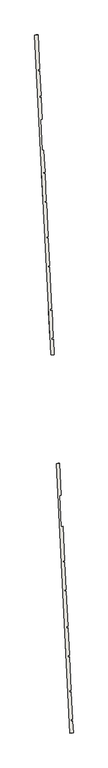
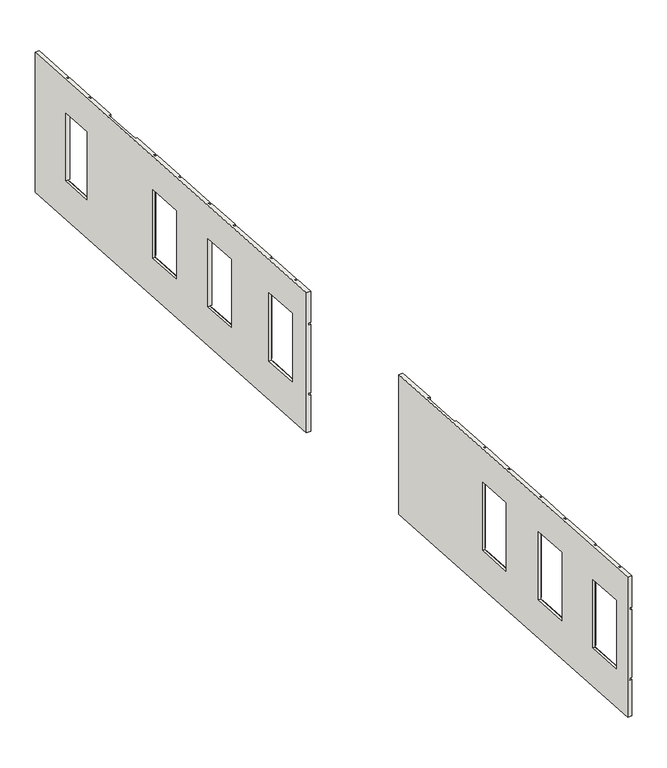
"""IFC4 building model written with IfcOpenShell, lengths in millimetres: wall geometry, kamposite4 : kamposite."""

from ifc_helpers import new_model, si_unit, origin, place, context, project, spatial, faceted_brep, source, transform, mapped, element, save


def wall_fa0acf3e(model_context):
    return source(origin(), model_context, "Body", "Brep", [
        faceted_brep([(13372.7715568, -13203.3324529, 13000.0), (13353.306831, -12820.9275904, 13000.0), (13353.306831, -12820.9275904, 13911.5733633), (13372.7715568, -13203.3324529, 13911.5733633), (13353.306831, -12820.9275904, 16500.0), (13372.7715568, -13203.3324529, 16500.0), (13372.7715568, -13203.3324529, 15720.5733633), (13353.306831, -12820.9275904, 15720.5733633), (13094.4833823, -7736.0706906, 16500.0), (13139.1735864, -8614.0564136, 16500.0), (13139.1735864, -8614.0564136, 15720.5733633), (13094.4833823, -7736.0706906, 15720.5733633), (13141.7153374, -8663.9917669, 16500.0), (13199.2035253, -9793.4072435, 16500.0), (13199.2035253, -9793.4072435, 15720.5733633), (13141.7153374, -8663.9917669, 15720.5733633), (13201.7452764, -9843.3425967, 16500.0), (13246.4354805, -10721.3283197, 16500.0), (13246.4354805, -10721.3283197, 15720.5733633), (13201.7452764, -9843.3425967, 15720.5733633), (13248.9772315, -10771.2636729, 16500.0), (13303.5331248, -11843.0711609, 16500.0), (13303.5331248, -11843.0711609, 15720.5733633), (13248.9772315, -10771.2636729, 15720.5733633), (13306.0748759, -11893.0065142, 16500.0), (13350.76508, -12770.9922372, 16500.0), (13350.76508, -12770.9922372, 15720.5733633), (13306.0748759, -11893.0065142, 15720.5733633), (13139.1735864, -8614.0564136, 13000.0), (13094.4833823, -7736.0706906, 13000.0), (13094.4833823, -7736.0706906, 13911.5733633), (13139.1735864, -8614.0564136, 13911.5733633), (13199.2035253, -9793.4072435, 13000.0), (13141.7153374, -8663.9917669, 13000.0), (13141.7153374, -8663.9917669, 13911.5733633), (13199.2035253, -9793.4072435, 13911.5733633), (13246.4354805, -10721.3283197, 13000.0), (13201.7452764, -9843.3425967, 13000.0), (13201.7452764, -9843.3425967, 13911.5733633), (13246.4354805, -10721.3283197, 13911.5733633), (13303.5331248, -11843.0711609, 13000.0), (13248.9772315, -10771.2636729, 13000.0), (13248.9772315, -10771.2636729, 13911.5733633), (13303.5331248, -11843.0711609, 13911.5733633), (13350.76508, -12770.9922372, 13000.0), (13306.0748759, -11893.0065142, 13000.0), (13306.0748759, -11893.0065142, 13911.5733633), (13350.76508, -12770.9922372, 13911.5733633), (13350.6602996, -12768.9337164, 15670.0), (13306.0748759, -11893.0065142, 15670.0), (13306.0748759, -11893.0065142, 15670.5733633), (13350.76508, -12770.9922372, 15670.5733633), (13350.76508, -12770.9922372, 13961.5733633), (13350.6602996, -12768.9337164, 13961.5733633), (13246.4354805, -10721.3283197, 15670.0), (13201.7452764, -9843.3425967, 15670.0), (13201.7452764, -9843.3425967, 15670.5733633), (13246.4354805, -10721.3283197, 15670.5733633), (13139.1735864, -8614.0564136, 15670.0), (13094.4833823, -7736.0706906, 15670.0), (13094.4833823, -7736.0706906, 15670.5733633), (13139.1735864, -8614.0564136, 15670.5733633), (12933.6170031, -4575.6827045, 13000.0), (12933.6170031, -4575.6827045, 13911.5733633), (12985.7398324, -5599.6901091, 13911.5733633), (12985.7398324, -5599.6901091, 13000.0), (12933.6170031, -4575.6827045, 15720.5733633), (12933.6170031, -4575.6827045, 16500.0), (12985.7398324, -5599.6901091, 16500.0), (12985.7398324, -5599.6901091, 15720.5733633), (12933.6170031, -4575.6827045, 13961.5733633), (12933.6170031, -4575.6827045, 15670.5733633), (12985.7398324, -5599.6901091, 15670.5733633), (12985.7398324, -5599.6901091, 13961.5733633), (13091.9416312, -7686.1353374, 13911.5733633), (13091.9416312, -7686.1353374, 13000.0), (13036.3776474, -6594.5228575, 13000.0), (13036.3776474, -6594.5228575, 13911.5733633), (13091.9416312, -7686.1353374, 16500.0), (13091.9416312, -7686.1353374, 15720.5733633), (13036.3776474, -6594.5228575, 15720.5733633), (13036.3776474, -6594.5228575, 16500.0), (13091.9416312, -7686.1353374, 15670.5733633), (13091.9416312, -7686.1353374, 13961.5733633), (13036.3776474, -6594.5228575, 13961.5733633), (13036.3776474, -6594.5228575, 15670.5733633), (13199.2035253, -9793.4072435, 15670.5733633), (13199.2035253, -9793.4072435, 13961.5733633), (13141.7153374, -8663.9917669, 13961.5733633), (13141.7153374, -8663.9917669, 15670.5733633), (13303.5331248, -11843.0711609, 15670.5733633), (13303.5331248, -11843.0711609, 13961.5733633), (13248.9772315, -10771.2636729, 13961.5733633), (13248.9772315, -10771.2636729, 15670.5733633), (13372.7715568, -13203.3324529, 15670.5733633), (13372.7715568, -13203.3324529, 13961.5733633), (13353.306831, -12820.9275904, 13961.5733633), (13353.306831, -12820.9275904, 15670.5733633), (12833.7462967, -4580.7662066, 16500.0), (12833.7462967, -4580.7662066, 13000.0), (13272.9008504, -13208.415955, 13000.0), (13272.9008504, -13208.415955, 16500.0), (13206.0547747, -11895.1550017, 15670.0), (13250.7895931, -12774.0172185, 15670.0), (13250.7895931, -12774.0172185, 13960.0), (13206.0547747, -11895.1550017, 13960.0), (13101.8429819, -9847.8055195, 15670.0), (13146.5778003, -10726.6677363, 15670.0), (13146.5778003, -10726.6677363, 13960.0), (13101.8429819, -9847.8055195, 13960.0), (12994.5810878, -7740.5336135, 15670.0), (13039.3159062, -8619.3958302, 15670.0), (13039.3159062, -8619.3958302, 13960.0), (12994.5810878, -7740.5336135, 13960.0), (13303.3714778, -12823.4693414, 16500.0), (13300.8297268, -12773.5339882, 16500.0), (13256.1395226, -11895.5482652, 16500.0), (13253.5977716, -11845.612912, 16500.0), (13199.0418783, -10773.805424, 16500.0), (13196.5001272, -10723.8700707, 16500.0), (13151.8099231, -9845.8843478, 16500.0), (13149.2681721, -9795.9489945, 16500.0), (13091.7799842, -8666.5335179, 16500.0), (13089.2382332, -8616.5981647, 16500.0), (13044.5480291, -7738.6124417, 16500.0), (13042.006278, -7688.6770885, 16500.0), (12986.4422941, -6597.0646086, 16500.0), (12935.8044792, -5602.2318601, 16500.0), (13322.8362036, -13205.874204, 13911.5733633), (13322.8362036, -13205.874204, 13961.5733633), (13322.8362036, -13205.874204, 15670.5733633), (13322.8362036, -13205.874204, 15720.5733633), (12935.8044792, -5602.2318601, 13000.0), (12986.4422941, -6597.0646086, 13000.0), (13042.006278, -7688.6770885, 13000.0), (13044.5480291, -7738.6124417, 13000.0), (13089.2382332, -8616.5981647, 13000.0), (13091.7799842, -8666.5335179, 13000.0), (13149.2681721, -9795.9489945, 13000.0), (13151.8099231, -9845.8843478, 13000.0), (13196.5001272, -10723.8700707, 13000.0), (13199.0418783, -10773.805424, 13000.0), (13253.5977716, -11845.612912, 13000.0), (13256.1395226, -11895.5482652, 13000.0), (13300.8297268, -12773.5339882, 13000.0), (13303.3714778, -12823.4693414, 13000.0), (12883.6816499, -4578.2244556, 15720.5733633), (12883.6816499, -4578.2244556, 15670.5733633), (12883.6816499, -4578.2244556, 13961.5733633), (12883.6816499, -4578.2244556, 13911.5733633), (13255.9901279, -11892.6132507, 13960.0), (13255.9901279, -11892.6132507, 15670.0), (13300.7249463, -12771.4754674, 13960.0), (13300.7249463, -12771.4754674, 13961.5733633), (13256.1395226, -11895.5482652, 15670.0), (13151.7783351, -9845.2637685, 13960.0), (13151.7783351, -9845.2637685, 15670.0), (13196.5131535, -10724.1259852, 13960.0), (13196.5131535, -10724.1259852, 15670.0), (13151.8099231, -9845.8843478, 15670.0), (13196.5001272, -10723.8700707, 15670.0), (13044.5164411, -7737.9918624, 13960.0), (13044.5164411, -7737.9918624, 15670.0), (13089.2512594, -8616.8540792, 13960.0), (13089.2512594, -8616.8540792, 15670.0), (13044.5480291, -7738.6124417, 15670.0), (13089.2382332, -8616.5981647, 15670.0), (13044.5480291, -7738.6124417, 15720.5733633), (13089.2382332, -8616.5981647, 15720.5733633), (13091.7799842, -8666.5335179, 15720.5733633), (13149.2681721, -9795.9489945, 15720.5733633), (13151.8099231, -9845.8843478, 15720.5733633), (13196.5001272, -10723.8700707, 15720.5733633), (13199.0418783, -10773.805424, 15720.5733633), (13253.5977716, -11845.612912, 15720.5733633), (13256.1395226, -11895.5482652, 15720.5733633), (13300.8297268, -12773.5339882, 15720.5733633), (13303.3714778, -12823.4693414, 15720.5733633), (13303.3714778, -12823.4693414, 15670.5733633), (13303.3714778, -12823.4693414, 13961.5733633), (13303.3714778, -12823.4693414, 13911.5733633), (13300.8297268, -12773.5339882, 13911.5733633), (13256.1395226, -11895.5482652, 13911.5733633), (13253.5977716, -11845.612912, 13911.5733633), (13199.0418783, -10773.805424, 13911.5733633), (13196.5001272, -10723.8700707, 13911.5733633), (13151.8099231, -9845.8843478, 13911.5733633), (13149.2681721, -9795.9489945, 13911.5733633), (13091.7799842, -8666.5335179, 13911.5733633), (13089.2382332, -8616.5981647, 13911.5733633), (13044.5480291, -7738.6124417, 13911.5733633), (13042.006278, -7688.6770885, 13911.5733633), (12986.4422941, -6597.0646086, 13911.5733633), (12935.8044792, -5602.2318601, 13911.5733633), (12935.8044792, -5602.2318601, 13961.5733633), (12935.8044792, -5602.2318601, 15670.5733633), (12935.8044792, -5602.2318601, 15720.5733633), (12986.4422941, -6597.0646086, 15720.5733633), (13042.006278, -7688.6770885, 15720.5733633), (13300.8297268, -12773.5339882, 13961.5733633), (13300.8297268, -12773.5339882, 15670.5733633), (13256.1395226, -11895.5482652, 15670.5733633), (13196.5001272, -10723.8700707, 15670.5733633), (13151.8099231, -9845.8843478, 15670.5733633), (13089.2382332, -8616.5981647, 15670.5733633), (13044.5480291, -7738.6124417, 15670.5733633), (13091.7799842, -8666.5335179, 15670.5733633), (13091.7799842, -8666.5335179, 13961.5733633), (13149.2681721, -9795.9489945, 13961.5733633), (13149.2681721, -9795.9489945, 15670.5733633), (13199.0418783, -10773.805424, 15670.5733633), (13199.0418783, -10773.805424, 13961.5733633), (13253.5977716, -11845.612912, 13961.5733633), (13253.5977716, -11845.612912, 15670.5733633), (13042.006278, -7688.6770885, 15670.5733633), (12986.4422941, -6597.0646086, 15670.5733633), (12986.4422941, -6597.0646086, 13961.5733633), (13042.006278, -7688.6770885, 13961.5733633)], [[[0, 1, 2, 3]], [[4, 5, 6, 7]], [[8, 9, 10, 11]], [[12, 13, 14, 15]], [[16, 17, 18, 19]], [[20, 21, 22, 23]], [[24, 25, 26, 27]], [[28, 29, 30, 31]], [[32, 33, 34, 35]], [[36, 37, 38, 39]], [[40, 41, 42, 43]], [[44, 45, 46, 47]], [[48, 49, 50, 51, 52, 53]], [[54, 55, 56, 57]], [[58, 59, 60, 61]], [[62, 63, 64, 65]], [[66, 67, 68, 69]], [[70, 71, 72, 73]], [[74, 75, 76, 77]], [[78, 79, 80, 81]], [[82, 83, 84, 85]], [[86, 87, 88, 89]], [[90, 91, 92, 93]], [[94, 95, 96, 97]], [[98, 99, 100, 101], [102, 103, 104, 105], [106, 107, 108, 109], [110, 111, 112, 113]], [[98, 101, 5, 4, 114, 115, 25, 24, 116, 117, 21, 20, 118, 119, 17, 16, 120, 121, 13, 12, 122, 123, 9, 8, 124, 125, 78, 81, 126, 127, 68, 67]], [[101, 100, 0, 3, 128, 129, 95, 94, 130, 131, 6, 5]], [[100, 99, 62, 65, 132, 133, 76, 75, 134, 135, 29, 28, 136, 137, 33, 32, 138, 139, 37, 36, 140, 141, 41, 40, 142, 143, 45, 44, 144, 145, 1, 0]], [[99, 98, 67, 66, 146, 147, 71, 70, 148, 149, 63, 62]], [[102, 105, 150, 151]], [[105, 104, 152, 150]], [[104, 103, 48, 53, 153, 152]], [[103, 102, 151, 154, 49, 48]], [[106, 109, 155, 156]], [[109, 108, 157, 155]], [[108, 107, 158, 157]], [[107, 106, 156, 159, 55, 54, 160, 158]], [[110, 113, 161, 162]], [[113, 112, 163, 161]], [[112, 111, 164, 163]], [[111, 110, 162, 165, 59, 58, 166, 164]], [[125, 124, 167, 168, 123, 122, 169, 170, 121, 120, 171, 172, 119, 118, 173, 174, 117, 116, 175, 176, 115, 114, 177, 131, 130, 178, 179, 129, 128, 180, 145, 144, 181, 182, 143, 142, 183, 184, 141, 140, 185, 186, 139, 138, 187, 188, 137, 136, 189, 190, 135, 134, 191, 192, 133, 132, 193, 149, 148, 194, 195, 147, 146, 196, 127, 126, 197, 198], [154, 151, 150, 152, 153, 199, 200, 201], [159, 156, 155, 157, 158, 160, 202, 203], [165, 162, 161, 163, 164, 166, 204, 205], [206, 207, 208, 209], [210, 211, 212, 213], [214, 215, 216, 217]], [[124, 8, 11, 167]], [[29, 135, 190, 30]], [[59, 165, 205, 60]], [[83, 82, 214, 217]], [[78, 125, 198, 79]], [[134, 75, 74, 191]], [[89, 88, 207, 206]], [[122, 12, 15, 169]], [[33, 137, 188, 34]], [[9, 123, 168, 10]], [[136, 28, 31, 189]], [[166, 58, 61, 204]], [[120, 16, 19, 171]], [[37, 139, 186, 38]], [[55, 159, 203, 56]], [[87, 86, 209, 208]], [[13, 121, 170, 14]], [[138, 32, 35, 187]], [[93, 92, 211, 210]], [[118, 20, 23, 173]], [[41, 141, 184, 42]], [[17, 119, 172, 18]], [[140, 36, 39, 185]], [[160, 54, 57, 202]], [[116, 24, 27, 175]], [[45, 143, 182, 46]], [[49, 154, 201, 50]], [[91, 90, 213, 212]], [[21, 117, 174, 22]], [[142, 40, 43, 183]], [[97, 96, 179, 178]], [[114, 4, 7, 177]], [[1, 145, 180, 2]], [[52, 51, 200, 199]], [[25, 115, 176, 26]], [[144, 44, 47, 181]], [[148, 70, 73, 194]], [[199, 153, 53, 52]], [[208, 207, 88, 87]], [[212, 211, 92, 91]], [[83, 217, 216, 84]], [[129, 179, 96, 95]], [[63, 149, 193, 64]], [[182, 181, 47, 46]], [[184, 183, 43, 42]], [[186, 185, 39, 38]], [[188, 187, 35, 34]], [[190, 189, 31, 30]], [[191, 74, 77, 192]], [[180, 128, 3, 2]], [[146, 66, 69, 196]], [[168, 167, 11, 10]], [[170, 169, 15, 14]], [[172, 171, 19, 18]], [[174, 173, 23, 22]], [[176, 175, 27, 26]], [[79, 198, 197, 80]], [[131, 177, 7, 6]], [[71, 147, 195, 72]], [[201, 200, 51, 50]], [[203, 202, 57, 56]], [[205, 204, 61, 60]], [[206, 209, 86, 89]], [[210, 213, 90, 93]], [[214, 82, 85, 215]], [[178, 130, 94, 97]], [[133, 192, 77, 76]], [[197, 126, 81, 80]], [[216, 215, 85, 84]], [[193, 132, 65, 64]], [[195, 194, 73, 72]], [[127, 196, 69, 68]]]),
        faceted_brep([(12334.7985206, 7188.7316375, 15660.0), (12294.384679, 7982.7037538, 15660.0), (12294.384679, 7982.7037538, 13961.5733633), (12294.2460013, 7985.4282216, 13961.5733633), (12294.2460013, 7985.4282216, 15670.5733633), (12334.8694038, 7187.3390638, 15670.5733633), (12334.8694038, 7187.3390638, 13961.5733633), (12334.7985206, 7188.7316375, 13961.5733633), (12731.730894, -609.4192918, 16500.0), (12756.4224718, -1094.5111191, 16500.0), (12756.4224718, -1094.5111191, 15720.5733633), (12731.730894, -609.4192918, 15720.5733633), (12684.4989388, 318.5017844, 16500.0), (12729.1891429, -559.4839386, 16500.0), (12729.1891429, -559.4839386, 15720.5733633), (12684.4989388, 318.5017844, 15720.5733633), (12614.0478206, 1702.5875625, 16500.0), (12681.9571878, 368.4371376, 16500.0), (12681.9571878, 368.4371376, 15720.5733633), (12614.0478206, 1702.5875625, 15720.5733633), (12566.8158655, 2630.5086387, 16500.0), (12611.5060696, 1752.5229157, 16500.0), (12611.5060696, 1752.5229157, 15720.5733633), (12566.8158655, 2630.5086387, 15720.5733633), (12509.0735025, 3764.9176506, 16500.0), (12564.2741144, 2680.4439919, 16500.0), (12564.2741144, 2680.4439919, 15720.5733633), (12509.0735025, 3764.9176506, 15720.5733633), (12461.8415473, 4692.8387269, 16500.0), (12506.5317514, 3814.8530039, 16500.0), (12506.5317514, 3814.8530039, 15720.5733633), (12461.8415473, 4692.8387269, 15720.5733633), (12235.5361304, 9138.844937, 16500.0), (12291.7042503, 8035.3635748, 16500.0), (12291.7042503, 8035.3635748, 15720.5733633), (12235.5361304, 9138.844937, 15720.5733633), (12294.2460013, 7985.4282216, 16500.0), (12334.8694038, 7187.3390638, 16500.0), (12334.8694038, 7187.3390638, 15720.5733633), (12294.2460013, 7985.4282216, 15720.5733633), (12756.4224718, -1094.5111191, 13000.0), (12731.730894, -609.4192918, 13000.0), (12731.730894, -609.4192918, 13911.5733633), (12756.4224718, -1094.5111191, 13911.5733633), (12729.1891429, -559.4839386, 13000.0), (12684.4989388, 318.5017844, 13000.0), (12684.4989388, 318.5017844, 13911.5733633), (12729.1891429, -559.4839386, 13911.5733633), (12681.9571878, 368.4371376, 13000.0), (12614.0478206, 1702.5875625, 13000.0), (12614.0478206, 1702.5875625, 13911.5733633), (12681.9571878, 368.4371376, 13911.5733633), (12611.5060696, 1752.5229157, 13000.0), (12566.8158655, 2630.5086387, 13000.0), (12566.8158655, 2630.5086387, 13911.5733633), (12611.5060696, 1752.5229157, 13911.5733633), (12564.2741144, 2680.4439919, 13000.0), (12509.0735025, 3764.9176506, 13000.0), (12509.0735025, 3764.9176506, 13911.5733633), (12564.2741144, 2680.4439919, 13911.5733633), (12506.5317514, 3814.8530039, 13000.0), (12461.8415473, 4692.8387269, 13000.0), (12461.8415473, 4692.8387269, 13911.5733633), (12506.5317514, 3814.8530039, 13911.5733633), (12291.7042503, 8035.3635748, 13000.0), (12235.5361304, 9138.844937, 13000.0), (12235.5361304, 9138.844937, 15670.5733633), (12291.7042503, 8035.3635748, 15670.5733633), (12291.7042503, 8035.3635748, 13961.5733633), (12235.558487, 9138.4057197, 13961.5733633), (12235.558487, 9138.4057197, 13911.5733633), (12291.7042503, 8035.3635748, 13911.5733633), (12334.8694038, 7187.3390638, 13000.0), (12294.2460013, 7985.4282216, 13000.0), (12294.2460013, 7985.4282216, 13911.5733633), (12334.8694038, 7187.3390638, 13911.5733633), (12729.1891429, -559.4839386, 15670.0), (12684.4989388, 318.5017844, 15670.0), (12684.4989388, 318.5017844, 15670.5733633), (12729.1891429, -559.4839386, 15670.5733633), (12611.5060696, 1752.5229157, 15670.0), (12567.0384526, 2626.1356827, 15670.0), (12567.0384526, 2626.1356827, 13961.5733633), (12566.8158655, 2630.5086387, 13961.5733633), (12566.8158655, 2630.5086387, 15670.5733633), (12611.5060696, 1752.5229157, 15670.5733633), (12506.5317514, 3814.8530039, 15670.0), (12461.8415473, 4692.8387269, 15670.0), (12461.8415473, 4692.8387269, 15670.5733633), (12506.5317514, 3814.8530039, 15670.5733633), (12756.4224718, -1094.5111191, 15670.5733633), (12756.4224718, -1094.5111191, 13961.5733633), (12731.730894, -609.4192918, 13961.5733633), (12731.730894, -609.4192918, 15670.5733633), (12681.9571878, 368.4371376, 15670.5733633), (12681.9571878, 368.4371376, 13961.5733633), (12614.0478206, 1702.5875625, 13961.5733633), (12614.0478206, 1702.5875625, 15670.5733633), (12564.2741144, 2680.4439919, 15670.5733633), (12564.2741144, 2680.4439919, 13961.5733633), (12509.0735025, 3764.9176506, 13961.5733633), (12509.0735025, 3764.9176506, 15670.5733633), (12459.2997963, 4742.7740801, 13911.5733633), (12459.2997963, 4742.7740801, 13000.0), (12423.674383, 5442.6725211, 13000.0), (12423.674383, 5442.6725211, 13911.5733633), (12459.2997963, 4742.7740801, 15670.5733633), (12459.2997963, 4742.7740801, 13961.5733633), (12423.674383, 5442.6725211, 13961.5733633), (12423.674383, 5442.6725211, 15670.5733633), (12459.2997963, 4742.7740801, 16500.0), (12459.2997963, 4742.7740801, 15720.5733633), (12423.674383, 5442.6725211, 15720.5733633), (12423.674383, 5442.6725211, 16500.0), (12337.4111548, 7137.4037105, 13000.0), (12337.4111548, 7137.4037105, 13911.5733633), (12373.0365681, 6437.5052695, 13911.5733633), (12373.0365681, 6437.5052695, 13000.0), (12337.4111548, 7137.4037105, 13961.5733633), (12337.4111548, 7137.4037105, 15670.5733633), (12373.0365681, 6437.5052695, 15670.5733633), (12373.0365681, 6437.5052695, 13961.5733633), (12337.4111548, 7137.4037105, 15720.5733633), (12337.4111548, 7137.4037105, 16500.0), (12373.0365681, 6437.5052695, 16500.0), (12373.0365681, 6437.5052695, 15720.5733633), (12135.665424, 9133.7614349, 16500.0), (12135.665424, 9133.7614349, 13000.0), (12656.5517653, -1099.5946212, 13000.0), (12656.5517653, -1099.5946212, 16500.0), (12194.5139726, 7977.6202517, 15660.0), (12234.9278142, 7183.6481354, 15660.0), (12234.9278142, 7183.6481354, 13960.0), (12194.5139726, 7977.6202517, 13960.0), (12584.5966444, 314.0388616, 15670.0), (12629.3314627, -564.8233551, 15670.0), (12629.3314627, -564.8233551, 13960.0), (12584.5966444, 314.0388616, 13960.0), (12467.1677461, 2621.0521806, 15670.0), (12511.9025645, 1742.1899638, 15670.0), (12511.9025645, 1742.1899638, 13960.0), (12467.1677461, 2621.0521806, 13960.0), (12361.9392529, 4688.375804, 15670.0), (12406.6740712, 3809.5135873, 15670.0), (12406.6740712, 3809.5135873, 13960.0), (12361.9392529, 4688.375804, 13960.0), (12681.7955408, -611.9610428, 16500.0), (12679.2537897, -562.0256896, 16500.0), (12634.5635856, 315.9600334, 16500.0), (12632.0218345, 365.8953866, 16500.0), (12564.1124674, 1700.0458114, 16500.0), (12561.5707163, 1749.9811647, 16500.0), (12516.8805122, 2627.9668877, 16500.0), (12514.3387612, 2677.9022409, 16500.0), (12459.1381493, 3762.3758996, 16500.0), (12456.5963982, 3812.3112528, 16500.0), (12411.9061941, 4690.2969758, 16500.0), (12409.364443, 4740.232329, 16500.0), (12373.7390298, 5440.13077, 16500.0), (12323.1012148, 6434.9635185, 16500.0), (12287.4758016, 7134.8619595, 16500.0), (12284.9340506, 7184.7973127, 16500.0), (12244.3106481, 7982.8864705, 16500.0), (12241.7688971, 8032.8218238, 16500.0), (12706.4871185, -1097.0528701, 13911.5733633), (12706.4871185, -1097.0528701, 13961.5733633), (12706.4871185, -1097.0528701, 15670.5733633), (12706.4871185, -1097.0528701, 15720.5733633), (12241.7688971, 8032.8218238, 13000.0), (12244.3106481, 7982.8864705, 13000.0), (12284.9340506, 7184.7973127, 13000.0), (12287.4758016, 7134.8619595, 13000.0), (12323.1012148, 6434.9635185, 13000.0), (12373.7390298, 5440.13077, 13000.0), (12409.364443, 4740.232329, 13000.0), (12411.9061941, 4690.2969758, 13000.0), (12456.5963982, 3812.3112528, 13000.0), (12459.1381493, 3762.3758996, 13000.0), (12514.3387612, 2677.9022409, 13000.0), (12516.8805122, 2627.9668877, 13000.0), (12561.5707163, 1749.9811647, 13000.0), (12564.1124674, 1700.0458114, 13000.0), (12632.0218345, 365.8953866, 13000.0), (12634.5635856, 315.9600334, 13000.0), (12679.2537897, -562.0256896, 13000.0), (12681.7955408, -611.9610428, 13000.0), (12185.6007772, 9136.3031859, 15720.5733633), (12185.6007772, 9136.3031859, 15670.5733633), (12244.4493258, 7980.1620027, 13960.0), (12244.4493258, 7980.1620027, 13961.5733633), (12284.8631674, 7186.1898865, 13960.0), (12284.8631674, 7186.1898865, 13961.5733633), (12634.5319976, 316.5806127, 13960.0), (12634.5319976, 316.5806127, 15670.0), (12679.266816, -562.2816041, 13960.0), (12679.266816, -562.2816041, 15670.0), (12634.5635856, 315.9600334, 15670.0), (12679.2537897, -562.0256896, 15670.0), (12517.1030993, 2623.5939316, 13960.0), (12517.1030993, 2623.5939316, 13961.5733633), (12561.8379177, 1744.7317149, 13960.0), (12561.8379177, 1744.7317149, 15670.0), (12561.5707163, 1749.9811647, 15670.0), (12411.8746061, 4690.9175551, 13960.0), (12411.8746061, 4690.9175551, 15670.0), (12456.6094245, 3812.0553383, 13960.0), (12456.6094245, 3812.0553383, 15670.0), (12411.9061941, 4690.2969758, 15670.0), (12456.5963982, 3812.3112528, 15670.0), (12634.5635856, 315.9600334, 15720.5733633), (12679.2537897, -562.0256896, 15720.5733633), (12681.7955408, -611.9610428, 15720.5733633), (12681.7955408, -611.9610428, 15670.5733633), (12681.7955408, -611.9610428, 13961.5733633), (12681.7955408, -611.9610428, 13911.5733633), (12679.2537897, -562.0256896, 13911.5733633), (12634.5635856, 315.9600334, 13911.5733633), (12632.0218345, 365.8953866, 13911.5733633), (12564.1124674, 1700.0458114, 13911.5733633), (12561.5707163, 1749.9811647, 13911.5733633), (12516.8805122, 2627.9668877, 13911.5733633), (12514.3387612, 2677.9022409, 13911.5733633), (12459.1381493, 3762.3758996, 13911.5733633), (12456.5963982, 3812.3112528, 13911.5733633), (12411.9061941, 4690.2969758, 13911.5733633), (12409.364443, 4740.232329, 13911.5733633), (12373.7390298, 5440.13077, 13911.5733633), (12323.1012148, 6434.9635185, 13911.5733633), (12287.4758016, 7134.8619595, 13911.5733633), (12284.9340506, 7184.7973127, 13911.5733633), (12244.3106481, 7982.8864705, 13911.5733633), (12241.7688971, 8032.8218238, 13911.5733633), (12185.6231337, 9135.8639687, 13911.5733633), (12185.6231337, 9135.8639687, 13961.5733633), (12241.7688971, 8032.8218238, 13961.5733633), (12241.7688971, 8032.8218238, 15670.5733633), (12241.7688971, 8032.8218238, 15720.5733633), (12244.3106481, 7982.8864705, 15720.5733633), (12284.9340506, 7184.7973127, 15720.5733633), (12287.4758016, 7134.8619595, 15720.5733633), (12323.1012148, 6434.9635185, 15720.5733633), (12373.7390298, 5440.13077, 15720.5733633), (12409.364443, 4740.232329, 15720.5733633), (12411.9061941, 4690.2969758, 15720.5733633), (12456.5963982, 3812.3112528, 15720.5733633), (12459.1381493, 3762.3758996, 15720.5733633), (12514.3387612, 2677.9022409, 15720.5733633), (12516.8805122, 2627.9668877, 15720.5733633), (12561.5707163, 1749.9811647, 15720.5733633), (12564.1124674, 1700.0458114, 15720.5733633), (12632.0218345, 365.8953866, 15720.5733633), (12679.2537897, -562.0256896, 15670.5733633), (12634.5635856, 315.9600334, 15670.5733633), (12561.5707163, 1749.9811647, 15670.5733633), (12516.8805122, 2627.9668877, 15670.5733633), (12516.8805122, 2627.9668877, 13961.5733633), (12456.5963982, 3812.3112528, 15670.5733633), (12411.9061941, 4690.2969758, 15670.5733633), (12632.0218345, 365.8953866, 13961.5733633), (12632.0218345, 365.8953866, 15670.5733633), (12564.1124674, 1700.0458114, 15670.5733633), (12564.1124674, 1700.0458114, 13961.5733633), (12514.3387612, 2677.9022409, 13961.5733633), (12514.3387612, 2677.9022409, 15670.5733633), (12459.1381493, 3762.3758996, 15670.5733633), (12459.1381493, 3762.3758996, 13961.5733633), (12409.364443, 4740.232329, 13961.5733633), (12409.364443, 4740.232329, 15670.5733633), (12373.7390298, 5440.13077, 15670.5733633), (12373.7390298, 5440.13077, 13961.5733633), (12244.3106481, 7982.8864705, 15670.5733633), (12244.3106481, 7982.8864705, 13961.5733633), (12284.9340506, 7184.7973127, 13961.5733633), (12284.9340506, 7184.7973127, 15670.5733633), (12287.4758016, 7134.8619595, 13961.5733633), (12323.1012148, 6434.9635185, 13961.5733633), (12323.1012148, 6434.9635185, 15670.5733633), (12287.4758016, 7134.8619595, 15670.5733633)], [[[0, 1, 2, 3, 4, 5, 6, 7]], [[8, 9, 10, 11]], [[12, 13, 14, 15]], [[16, 17, 18, 19]], [[20, 21, 22, 23]], [[24, 25, 26, 27]], [[28, 29, 30, 31]], [[32, 33, 34, 35]], [[36, 37, 38, 39]], [[40, 41, 42, 43]], [[44, 45, 46, 47]], [[48, 49, 50, 51]], [[52, 53, 54, 55]], [[56, 57, 58, 59]], [[60, 61, 62, 63]], [[64, 65, 66, 67, 68, 69, 70, 71]], [[72, 73, 74, 75]], [[76, 77, 78, 79]], [[80, 81, 82, 83, 84, 85]], [[86, 87, 88, 89]], [[90, 91, 92, 93]], [[94, 95, 96, 97]], [[98, 99, 100, 101]], [[102, 103, 104, 105]], [[106, 107, 108, 109]], [[110, 111, 112, 113]], [[114, 115, 116, 117]], [[118, 119, 120, 121]], [[122, 123, 124, 125]], [[126, 127, 128, 129], [130, 131, 132, 133], [134, 135, 136, 137], [138, 139, 140, 141], [142, 143, 144, 145]], [[126, 129, 9, 8, 146, 147, 13, 12, 148, 149, 17, 16, 150, 151, 21, 20, 152, 153, 25, 24, 154, 155, 29, 28, 156, 157, 110, 113, 158, 159, 124, 123, 160, 161, 37, 36, 162, 163, 33, 32]], [[129, 128, 40, 43, 164, 165, 91, 90, 166, 167, 10, 9]], [[128, 127, 65, 64, 168, 169, 73, 72, 170, 171, 114, 117, 172, 173, 104, 103, 174, 175, 61, 60, 176, 177, 57, 56, 178, 179, 53, 52, 180, 181, 49, 48, 182, 183, 45, 44, 184, 185, 41, 40]], [[127, 126, 32, 35, 186, 187, 66, 65]], [[130, 133, 188, 189, 2, 1]], [[133, 132, 190, 188]], [[132, 131, 0, 7, 191, 190]], [[1, 0, 131, 130]], [[134, 137, 192, 193]], [[137, 136, 194, 192]], [[136, 135, 195, 194]], [[135, 134, 193, 196, 77, 76, 197, 195]], [[138, 141, 198, 199, 82, 81]], [[141, 140, 200, 198]], [[140, 139, 201, 200]], [[139, 138, 81, 80, 202, 201]], [[142, 145, 203, 204]], [[145, 144, 205, 203]], [[144, 143, 206, 205]], [[143, 142, 204, 207, 87, 86, 208, 206]], [[149, 148, 209, 210, 147, 146, 211, 167, 166, 212, 213, 165, 164, 214, 185, 184, 215, 216, 183, 182, 217, 218, 181, 180, 219, 220, 179, 178, 221, 222, 177, 176, 223, 224, 175, 174, 225, 226, 173, 172, 227, 228, 171, 170, 229, 230, 169, 168, 231, 232, 233, 234, 235, 187, 186, 236, 163, 162, 237, 238, 161, 160, 239, 240, 159, 158, 241, 242, 157, 156, 243, 244, 155, 154, 245, 246, 153, 152, 247, 248, 151, 150, 249, 250], [196, 193, 192, 194, 195, 197, 251, 252], [201, 202, 253, 254, 255, 199, 198, 200], [207, 204, 203, 205, 206, 208, 256, 257], [258, 259, 260, 261], [262, 263, 264, 265], [266, 267, 268, 269], [270, 271, 189, 188, 190, 191, 272, 273], [274, 275, 276, 277]], [[148, 12, 15, 209]], [[45, 183, 216, 46]], [[77, 196, 252, 78]], [[95, 94, 259, 258]], [[17, 149, 250, 18]], [[182, 48, 51, 217]], [[93, 92, 213, 212]], [[146, 8, 11, 211]], [[41, 185, 214, 42]], [[13, 147, 210, 14]], [[184, 44, 47, 215]], [[197, 76, 79, 251]], [[84, 83, 255, 254]], [[152, 20, 23, 247]], [[53, 179, 220, 54]], [[99, 98, 263, 262]], [[25, 153, 246, 26]], [[178, 56, 59, 221]], [[97, 96, 261, 260]], [[150, 16, 19, 249]], [[49, 181, 218, 50]], [[21, 151, 248, 22]], [[180, 52, 55, 219]], [[202, 80, 85, 253]], [[156, 28, 31, 243]], [[61, 175, 224, 62]], [[87, 207, 257, 88]], [[107, 106, 267, 266]], [[110, 157, 242, 111]], [[174, 103, 102, 225]], [[101, 100, 265, 264]], [[154, 24, 27, 245]], [[57, 177, 222, 58]], [[29, 155, 244, 30]], [[176, 60, 63, 223]], [[208, 86, 89, 256]], [[4, 3, 271, 270]], [[162, 36, 39, 237]], [[73, 169, 230, 74]], [[68, 67, 235, 234]], [[33, 163, 236, 34]], [[168, 64, 71, 231]], [[119, 118, 274, 277]], [[160, 123, 122, 239]], [[114, 171, 228, 115]], [[6, 5, 273, 272]], [[37, 161, 238, 38]], [[170, 72, 75, 229]], [[214, 164, 43, 42]], [[216, 215, 47, 46]], [[218, 217, 51, 50]], [[220, 219, 55, 54]], [[222, 221, 59, 58]], [[224, 223, 63, 62]], [[230, 229, 75, 74]], [[225, 102, 105, 226]], [[115, 228, 227, 116]], [[70, 232, 231, 71]], [[165, 213, 92, 91]], [[199, 255, 83, 82]], [[258, 261, 96, 95]], [[262, 265, 100, 99]], [[189, 271, 3, 2]], [[272, 191, 7, 6]], [[107, 266, 269, 108]], [[274, 118, 121, 275]], [[233, 69, 68, 234]], [[212, 166, 90, 93]], [[252, 251, 79, 78]], [[254, 253, 85, 84]], [[257, 256, 89, 88]], [[260, 259, 94, 97]], [[264, 263, 98, 101]], [[270, 273, 5, 4]], [[267, 106, 109, 268]], [[119, 277, 276, 120]], [[187, 235, 67, 66]], [[210, 209, 15, 14]], [[167, 211, 11, 10]], [[238, 237, 39, 38]], [[244, 243, 31, 30]], [[246, 245, 27, 26]], [[248, 247, 23, 22]], [[250, 249, 19, 18]], [[111, 242, 241, 112]], [[239, 122, 125, 240]], [[236, 186, 35, 34]], [[173, 226, 105, 104]], [[241, 158, 113, 112]], [[269, 268, 109, 108]], [[227, 172, 117, 116]], [[159, 240, 125, 124]], [[276, 275, 121, 120]], [[233, 232, 70, 69]]]),
    ])


if __name__ == "__main__":
    model = new_model("IFC4")
    model_context = context("Model", 3, world=origin())
    ifc_project = project(units=[si_unit("LENGTHUNIT", "METRE", prefix="MILLI")], contexts=[model_context])
    site = spatial("IfcSite", under=ifc_project)
    building = spatial("IfcBuilding", under=site)
    placement = place(None, origin())
    wall_shape = wall_fa0acf3e(model_context)
    element("IfcWall", 1, ObjectType="kamposite4 : kamposite", at=placement, inside=building, context=model_context, shape_type="MappedRepresentation", body=[
        mapped(wall_shape, transform((0.0, 0.0, 0.0), x_axis=(1.0, 0.0, 0.0), y_axis=(0.0, 1.0, 0.0), z_axis=(0.0, 0.0, 1.0))),
    ])
    save(model, "model.ifc")
